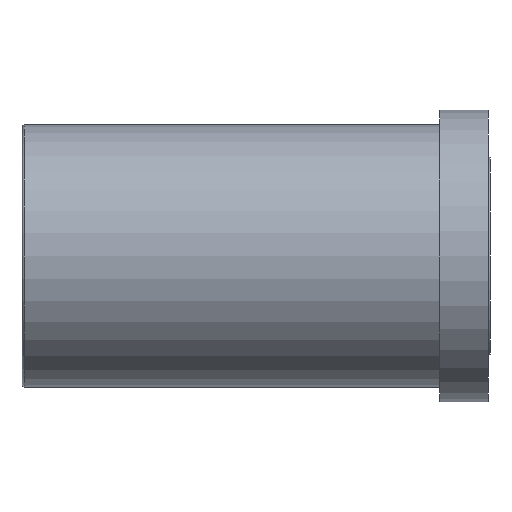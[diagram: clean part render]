
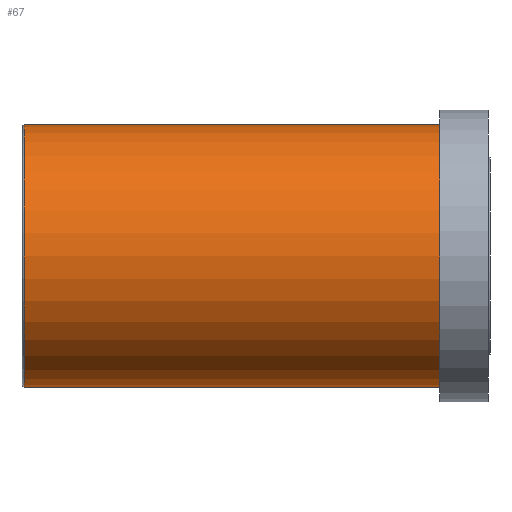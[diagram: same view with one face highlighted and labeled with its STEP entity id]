
A CAD part, left-side view. The second image highlights one B-rep face of the part: STEP entity #67.
In plain terms, the highlighted cylindrical face has radius 27 mm (diameter 54 mm), a partial arc.
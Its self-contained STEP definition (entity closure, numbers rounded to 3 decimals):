
#5 = CYLINDRICAL_SURFACE ( 'NONE', #206, 27. ) ;
#17 = DIRECTION ( 'NONE',  ( 0., -1., 0. ) ) ;
#57 = CARTESIAN_POINT ( 'NONE',  ( 0., 0., 27. ) ) ;
#64 = LINE ( 'NONE', #57, #210 ) ;
#67 = ADVANCED_FACE ( 'NONE', ( #460 ), #5, .T. ) ;
#78 = VECTOR ( 'NONE', #17, 1000. ) ;
#91 = EDGE_LOOP ( 'NONE', ( #479, #232, #465, #464 ) ) ;
#92 = CARTESIAN_POINT ( 'NONE',  ( 0., 0., 0. ) ) ;
#101 = VERTEX_POINT ( 'NONE', #403 ) ;
#120 = DIRECTION ( 'NONE',  ( 0., 0., -1. ) ) ;
#124 = AXIS2_PLACEMENT_3D ( 'NONE', #92, #369, #136 ) ;
#136 = DIRECTION ( 'NONE',  ( 0., 0., -1. ) ) ;
#141 = EDGE_CURVE ( 'NONE', #297, #491, #488, .T. ) ;
#171 = VERTEX_POINT ( 'NONE', #406 ) ;
#178 = DIRECTION ( 'NONE',  ( 0., -1., 0. ) ) ;
#198 = EDGE_CURVE ( 'NONE', #171, #101, #349, .T. ) ;
#203 = DIRECTION ( 'NONE',  ( 0., -1., 0. ) ) ;
#206 = AXIS2_PLACEMENT_3D ( 'NONE', #352, #312, #120 ) ;
#210 = VECTOR ( 'NONE', #203, 1000. ) ;
#232 = ORIENTED_EDGE ( 'NONE', *, *, #198, .T. ) ;
#278 = EDGE_CURVE ( 'NONE', #171, #297, #64, .T. ) ;
#294 = CARTESIAN_POINT ( 'NONE',  ( 0., 0., -27. ) ) ;
#295 = AXIS2_PLACEMENT_3D ( 'NONE', #413, #178, #445 ) ;
#297 = VERTEX_POINT ( 'NONE', #463 ) ;
#312 = DIRECTION ( 'NONE',  ( 0., -1., 0. ) ) ;
#330 = LINE ( 'NONE', #294, #78 ) ;
#349 = CIRCLE ( 'NONE', #295, 27. ) ;
#352 = CARTESIAN_POINT ( 'NONE',  ( 0., 0., 0. ) ) ;
#369 = DIRECTION ( 'NONE',  ( 0., -1., 0. ) ) ;
#403 = CARTESIAN_POINT ( 'NONE',  ( 0., 85.5, -27. ) ) ;
#406 = CARTESIAN_POINT ( 'NONE',  ( 0., 85.5, 27. ) ) ;
#413 = CARTESIAN_POINT ( 'NONE',  ( 0., 85.5, 0. ) ) ;
#414 = CARTESIAN_POINT ( 'NONE',  ( 0., 0., -27. ) ) ;
#428 = EDGE_CURVE ( 'NONE', #101, #491, #330, .T. ) ;
#445 = DIRECTION ( 'NONE',  ( 0., 0., -1. ) ) ;
#460 = FACE_OUTER_BOUND ( 'NONE', #91, .T. ) ;
#463 = CARTESIAN_POINT ( 'NONE',  ( 0., 0., 27. ) ) ;
#464 = ORIENTED_EDGE ( 'NONE', *, *, #141, .F. ) ;
#465 = ORIENTED_EDGE ( 'NONE', *, *, #428, .T. ) ;
#479 = ORIENTED_EDGE ( 'NONE', *, *, #278, .F. ) ;
#488 = CIRCLE ( 'NONE', #124, 27. ) ;
#491 = VERTEX_POINT ( 'NONE', #414 ) ;
